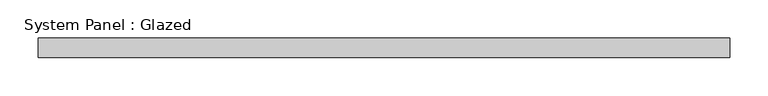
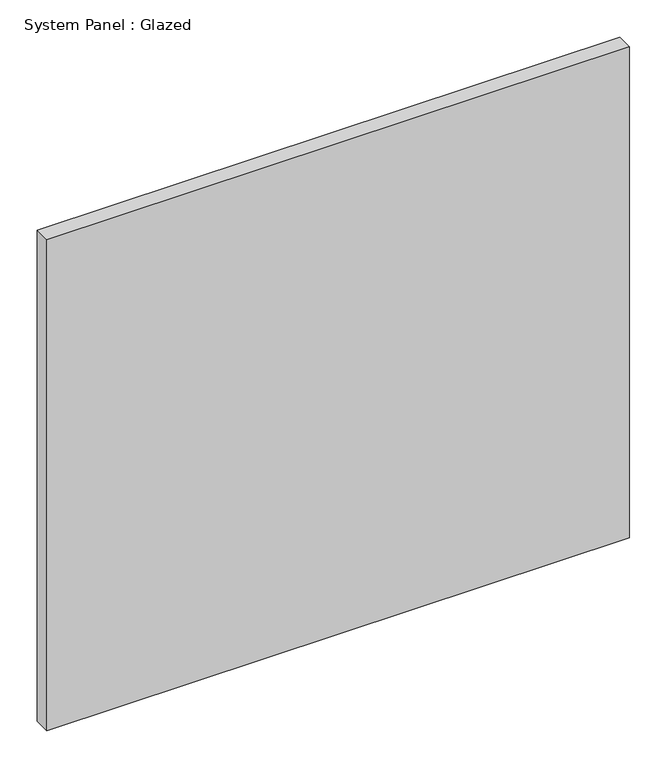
"""IFC4 building model written with IfcOpenShell, lengths in millimetres: plate geometry, System Panel : Glazed."""

from ifc_helpers import new_model, si_unit, origin, origin_with_axes, place, context, project, spatial, polyline, outline, extrude, source, transform, mapped, element, save


def system_panel_glazed_cf8f2fb3(model_context):
    return source(origin(), model_context, "Body", "SweptSolid", [
        extrude(outline(polyline([(450.85, 19.05), (-450.85, 19.05), (-450.85, 44.45), (450.85, 44.45), (450.85, 19.05)])), origin_with_axes(), (0.0, 0.0, 1.0), 802.4190025),
    ])


if __name__ == "__main__":
    model = new_model("IFC4")
    model_context = context("Model", 3, world=origin())
    ifc_project = project(units=[si_unit("LENGTHUNIT", "METRE", prefix="MILLI")], contexts=[model_context])
    site = spatial("IfcSite", under=ifc_project)
    building = spatial("IfcBuilding", under=site)
    placement = place(None, origin())
    system_panel_glazed_shape = system_panel_glazed_cf8f2fb3(model_context)
    element("IfcPlate", 1, ObjectType="System Panel : Glazed", at=placement, inside=building, context=model_context, shape_type="MappedRepresentation", body=[
        mapped(system_panel_glazed_shape, transform((0.0, 0.0, 0.0), x_axis=(1.0, 0.0, 0.0), y_axis=(0.0, 1.0, 0.0), z_axis=(0.0, 0.0, 1.0))),
    ])
    save(model, "model.ifc")
